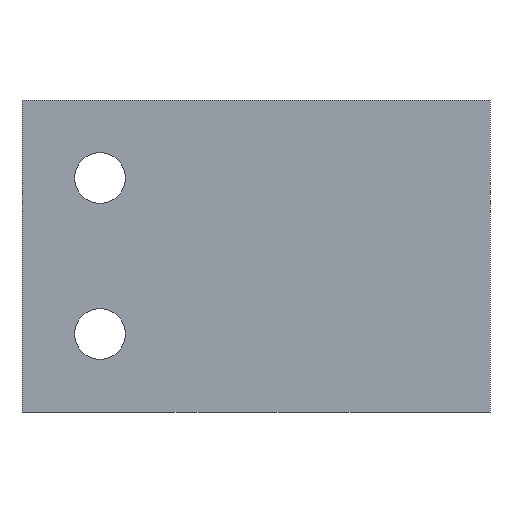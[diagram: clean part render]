
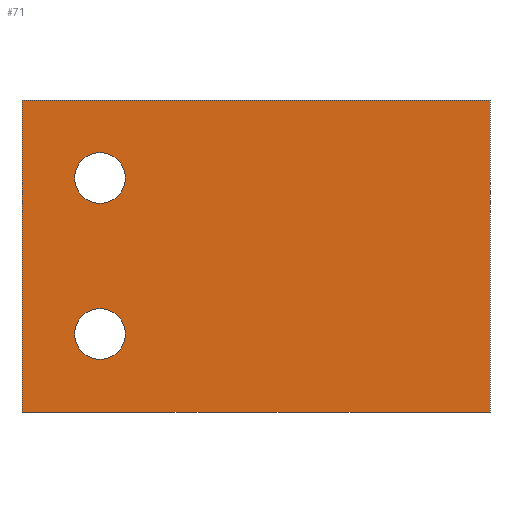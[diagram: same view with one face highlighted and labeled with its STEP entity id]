
A CAD part, front view. The second image highlights one B-rep face of the part: STEP entity #71.
In plain terms, the highlighted planar face has unit normal (0, -1, 0).
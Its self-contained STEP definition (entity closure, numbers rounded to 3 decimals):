
#1 = DIRECTION ( 'NONE',  ( 0., 0., -1. ) ) ;
#2 = DIRECTION ( 'NONE',  ( 0., -1., 0. ) ) ;
#23 = AXIS2_PLACEMENT_3D ( 'NONE', #286, #156, #289 ) ;
#34 = CARTESIAN_POINT ( 'NONE',  ( 10., -19., 10. ) ) ;
#35 = CARTESIAN_POINT ( 'NONE',  ( 60., -19., 20. ) ) ;
#37 = EDGE_CURVE ( 'NONE', #72, #376, #54, .T. ) ;
#54 = LINE ( 'NONE', #190, #285 ) ;
#56 = EDGE_CURVE ( 'NONE', #353, #353, #98, .T. ) ;
#71 = ADVANCED_FACE ( 'NONE', ( #252, #253, #92 ), #215, .F. ) ;
#72 = VERTEX_POINT ( 'NONE', #220 ) ;
#80 = VERTEX_POINT ( 'NONE', #352 ) ;
#84 = CIRCLE ( 'NONE', #135, 3.25 ) ;
#90 = ORIENTED_EDGE ( 'NONE', *, *, #222, .F. ) ;
#92 = FACE_OUTER_BOUND ( 'NONE', #405, .T. ) ;
#94 = LINE ( 'NONE', #35, #423 ) ;
#95 = DIRECTION ( 'NONE',  ( -1., 0., 0. ) ) ;
#98 = CIRCLE ( 'NONE', #23, 3.25 ) ;
#109 = VERTEX_POINT ( 'NONE', #138 ) ;
#135 = AXIS2_PLACEMENT_3D ( 'NONE', #34, #2, #300 ) ;
#138 = CARTESIAN_POINT ( 'NONE',  ( 0., -19., 20. ) ) ;
#146 = ORIENTED_EDGE ( 'NONE', *, *, #298, .F. ) ;
#150 = LINE ( 'NONE', #272, #225 ) ;
#156 = DIRECTION ( 'NONE',  ( 0., -1., 0. ) ) ;
#160 = ORIENTED_EDGE ( 'NONE', *, *, #299, .T. ) ;
#162 = CARTESIAN_POINT ( 'NONE',  ( 10., -19., -13.25 ) ) ;
#174 = CARTESIAN_POINT ( 'NONE',  ( 60., -19., -20. ) ) ;
#190 = CARTESIAN_POINT ( 'NONE',  ( 60., -19., 20. ) ) ;
#210 = EDGE_LOOP ( 'NONE', ( #414 ) ) ;
#211 = DIRECTION ( 'NONE',  ( 1., 0., 0. ) ) ;
#215 = PLANE ( 'NONE',  #318 ) ;
#220 = CARTESIAN_POINT ( 'NONE',  ( 60., -19., 20. ) ) ;
#222 = EDGE_CURVE ( 'NONE', #109, #72, #94, .T. ) ;
#225 = VECTOR ( 'NONE', #211, 1000. ) ;
#252 = FACE_BOUND ( 'NONE', #412, .T. ) ;
#253 = FACE_BOUND ( 'NONE', #210, .T. ) ;
#261 = DIRECTION ( 'NONE',  ( 1., 0., 0. ) ) ;
#272 = CARTESIAN_POINT ( 'NONE',  ( 60., -19., -20. ) ) ;
#285 = VECTOR ( 'NONE', #1, 1000. ) ;
#286 = CARTESIAN_POINT ( 'NONE',  ( 10., -19., -10. ) ) ;
#289 = DIRECTION ( 'NONE',  ( 0., 0., -1. ) ) ;
#297 = DIRECTION ( 'NONE',  ( 0., 0., -1. ) ) ;
#298 = EDGE_CURVE ( 'NONE', #359, #359, #84, .T. ) ;
#299 = EDGE_CURVE ( 'NONE', #109, #80, #397, .T. ) ;
#300 = DIRECTION ( 'NONE',  ( 0., 0., -1. ) ) ;
#308 = ORIENTED_EDGE ( 'NONE', *, *, #37, .F. ) ;
#318 = AXIS2_PLACEMENT_3D ( 'NONE', #347, #386, #95 ) ;
#330 = ORIENTED_EDGE ( 'NONE', *, *, #388, .T. ) ;
#347 = CARTESIAN_POINT ( 'NONE',  ( 60., -19., 20. ) ) ;
#352 = CARTESIAN_POINT ( 'NONE',  ( 0., -19., -20. ) ) ;
#353 = VERTEX_POINT ( 'NONE', #162 ) ;
#359 = VERTEX_POINT ( 'NONE', #387 ) ;
#376 = VERTEX_POINT ( 'NONE', #174 ) ;
#383 = VECTOR ( 'NONE', #297, 1000. ) ;
#386 = DIRECTION ( 'NONE',  ( 0., 1., 0. ) ) ;
#387 = CARTESIAN_POINT ( 'NONE',  ( 10., -19., 6.75 ) ) ;
#388 = EDGE_CURVE ( 'NONE', #80, #376, #150, .T. ) ;
#397 = LINE ( 'NONE', #398, #383 ) ;
#398 = CARTESIAN_POINT ( 'NONE',  ( 0., -19., 20. ) ) ;
#405 = EDGE_LOOP ( 'NONE', ( #330, #308, #90, #160 ) ) ;
#412 = EDGE_LOOP ( 'NONE', ( #146 ) ) ;
#414 = ORIENTED_EDGE ( 'NONE', *, *, #56, .F. ) ;
#423 = VECTOR ( 'NONE', #261, 1000. ) ;
